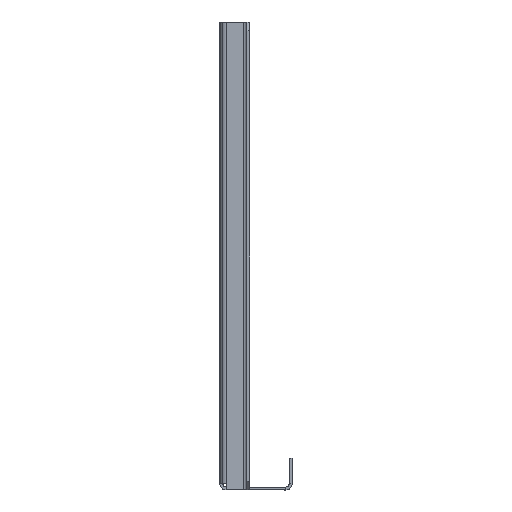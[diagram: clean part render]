
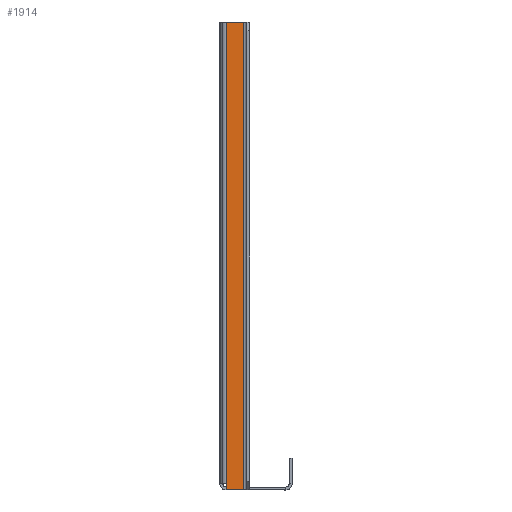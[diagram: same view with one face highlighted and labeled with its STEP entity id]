
A CAD part, left-side view. The second image highlights one B-rep face of the part: STEP entity #1914.
In plain terms, the highlighted planar face has unit normal (-1, 0, 0).
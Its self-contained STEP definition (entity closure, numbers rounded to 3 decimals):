
#106 = ORIENTED_EDGE ( 'NONE', *, *, #3092, .F. ) ;
#130 = LINE ( 'NONE', #702, #3226 ) ;
#228 = DIRECTION ( 'NONE',  ( 0., 0., -1. ) ) ;
#280 = DIRECTION ( 'NONE',  ( -1., 0., 0. ) ) ;
#299 = FACE_OUTER_BOUND ( 'NONE', #3259, .T. ) ;
#340 = EDGE_CURVE ( 'NONE', #3232, #2039, #130, .T. ) ;
#353 = CARTESIAN_POINT ( 'NONE',  ( -314., -11.1, 110. ) ) ;
#382 = LINE ( 'NONE', #3527, #3406 ) ;
#702 = CARTESIAN_POINT ( 'NONE',  ( -314., -2.9, 110. ) ) ;
#879 = CARTESIAN_POINT ( 'NONE',  ( -314., 0., 110. ) ) ;
#916 = PLANE ( 'NONE',  #2095 ) ;
#962 = CARTESIAN_POINT ( 'NONE',  ( -314., -11.1, -110. ) ) ;
#990 = EDGE_CURVE ( 'NONE', #2580, #3232, #1505, .T. ) ;
#1070 = CARTESIAN_POINT ( 'NONE',  ( -314., -11.1, 110. ) ) ;
#1193 = CARTESIAN_POINT ( 'NONE',  ( -314., 0., 110. ) ) ;
#1290 = DIRECTION ( 'NONE',  ( 0., 0., -1. ) ) ;
#1385 = EDGE_CURVE ( 'NONE', #3749, #2580, #3045, .T. ) ;
#1393 = VERTEX_POINT ( 'NONE', #962 ) ;
#1505 = LINE ( 'NONE', #2461, #2700 ) ;
#1783 = ORIENTED_EDGE ( 'NONE', *, *, #990, .T. ) ;
#1868 = CARTESIAN_POINT ( 'NONE',  ( -314., -2.9, -110. ) ) ;
#1877 = ORIENTED_EDGE ( 'NONE', *, *, #2688, .F. ) ;
#1914 = ADVANCED_FACE ( 'NONE', ( #299 ), #916, .T. ) ;
#1920 = ORIENTED_EDGE ( 'NONE', *, *, #1385, .T. ) ;
#2019 = LINE ( 'NONE', #1070, #3550 ) ;
#2039 = VERTEX_POINT ( 'NONE', #1868 ) ;
#2095 = AXIS2_PLACEMENT_3D ( 'NONE', #1193, #280, #3027 ) ;
#2172 = DIRECTION ( 'NONE',  ( 0., 0., -1. ) ) ;
#2461 = CARTESIAN_POINT ( 'NONE',  ( -314., -2.9, 110. ) ) ;
#2580 = VERTEX_POINT ( 'NONE', #3050 ) ;
#2671 = VECTOR ( 'NONE', #3375, 1000. ) ;
#2688 = EDGE_CURVE ( 'NONE', #3749, #1393, #2019, .T. ) ;
#2700 = VECTOR ( 'NONE', #2172, 1000. ) ;
#3027 = DIRECTION ( 'NONE',  ( 0., 0., 1. ) ) ;
#3045 = LINE ( 'NONE', #879, #2671 ) ;
#3050 = CARTESIAN_POINT ( 'NONE',  ( -314., -2.9, 110. ) ) ;
#3092 = EDGE_CURVE ( 'NONE', #1393, #2039, #382, .T. ) ;
#3185 = DIRECTION ( 'NONE',  ( 0., 1., 0. ) ) ;
#3226 = VECTOR ( 'NONE', #1290, 1000. ) ;
#3232 = VERTEX_POINT ( 'NONE', #3582 ) ;
#3259 = EDGE_LOOP ( 'NONE', ( #106, #1877, #1920, #1783, #3566 ) ) ;
#3375 = DIRECTION ( 'NONE',  ( 0., 1., 0. ) ) ;
#3406 = VECTOR ( 'NONE', #3185, 1000. ) ;
#3527 = CARTESIAN_POINT ( 'NONE',  ( -314., 0., -110. ) ) ;
#3550 = VECTOR ( 'NONE', #228, 1000. ) ;
#3566 = ORIENTED_EDGE ( 'NONE', *, *, #340, .T. ) ;
#3582 = CARTESIAN_POINT ( 'NONE',  ( -314., -2.9, -107.1 ) ) ;
#3749 = VERTEX_POINT ( 'NONE', #353 ) ;
